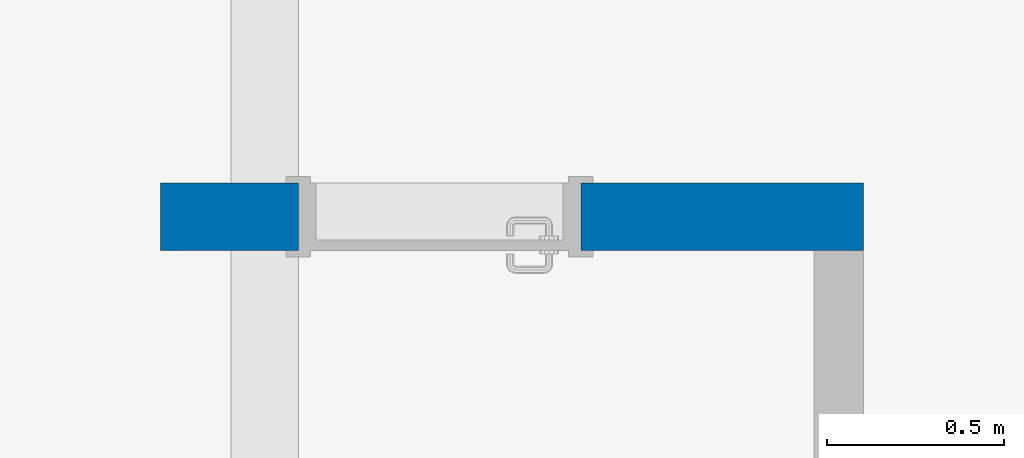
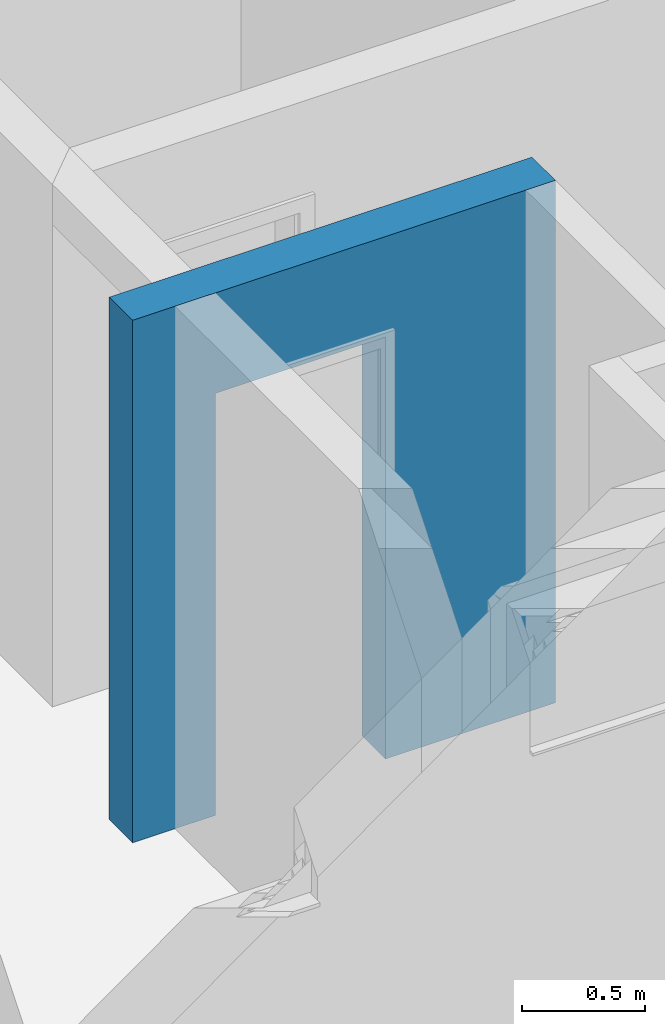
# One storey, part 32 of 47: 1 wall, 1 opening.
"""IFC2X3 building model written with IfcOpenShell, lengths in millimetres."""

from ifc_helpers import new_model, entity, si_unit, converted_unit, derived_unit, money_unit, direction, frame, origin_with_axes, origin_2d_with_axis, place, context, subcontext, project, spatial, polyline, rectangle, outline, extrude, material, layer, layer_set, layer_usage, type_object, element, save


model = new_model("IFC2X3")

# Units and contexts
model_context = context("Model", 3, precision=0.01, world=origin_with_axes(), true_north=direction((0.0, 1.0)))
body_context = subcontext(model_context, "Body", "Model", "MODEL_VIEW")
ifc_project = project(units=[si_unit("LENGTHUNIT", "METRE", prefix="MILLI"), si_unit("AREAUNIT", "SQUARE_METRE"), si_unit("VOLUMEUNIT", "CUBIC_METRE"), converted_unit("PLANEANGLEUNIT", "DEGREE", entity("IfcPlaneAngleMeasure", 0.0174532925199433), si_unit("PLANEANGLEUNIT", "RADIAN"), dimensions=[0, 0, 0, 0, 0, 0, 0]), money_unit("USD"), converted_unit("TIMEUNIT", "Year", entity("IfcTimeMeasure", 31557600.0), si_unit("TIMEUNIT", "SECOND"), dimensions=[0, 0, 1, 0, 0, 0, 0]), si_unit("MASSUNIT", "GRAM", prefix="KILO"), si_unit("THERMODYNAMICTEMPERATUREUNIT", "DEGREE_CELSIUS"), si_unit("LUMINOUSINTENSITYUNIT", "LUMEN"), si_unit("ENERGYUNIT", "JOULE", prefix="MEGA"), derived_unit("THERMALCONDUCTANCEUNIT", [(si_unit("POWERUNIT", "WATT"), 1), (si_unit("LENGTHUNIT", "METRE"), -1), (si_unit("THERMODYNAMICTEMPERATUREUNIT", "KELVIN"), -1)]), derived_unit("SPECIFICHEATCAPACITYUNIT", [(si_unit("ENERGYUNIT", "JOULE"), 1), (si_unit("MASSUNIT", "GRAM", prefix="KILO"), -1), (si_unit("THERMODYNAMICTEMPERATUREUNIT", "KELVIN"), -1)]), derived_unit("MASSDENSITYUNIT", [(si_unit("MASSUNIT", "GRAM", prefix="KILO"), 1), (si_unit("VOLUMEUNIT", "CUBIC_METRE"), -1)])], contexts=[model_context])

# Site, building, storey
site_placement = place(None, origin_with_axes())
site = spatial("IfcSite", under=ifc_project, at=site_placement, Name="Local", CompositionType="ELEMENT")
building_placement = place(site_placement, origin_with_axes())
building = spatial("IfcBuilding", under=site, at=building_placement, Name="Construção", CompositionType="ELEMENT")
storey_placement = place(building_placement, origin_with_axes())
storey = spatial("IfcBuildingStorey", under=building, at=storey_placement, Name="Pavimento Tipo", CompositionType="ELEMENT", Elevation=0.0)

# Wall, opening
ifc_material = material(Name="Concreto - Estrutural")
ifc_layer = layer(ifc_material, 190.0, ventilated="UNKNOWN")
ifc_layer_set = layer_set([ifc_layer], Name="Concreto - Estrutural 190")
ifc_layer_usage = layer_usage(ifc_layer_set, "AXIS2", "POSITIVE", 0.0)
wall_type = type_object("IfcWallType", Name="Concreto - Estrutural 190", PredefinedType="NOTDEFINED")
wall_placement = place(storey_placement, frame((-2757.433002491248, 14786.98141771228, 0.0), z_axis=(0.0, 0.0, 1.0), x_axis=(-1.0, 0.0, 0.0)))
wall = element("IfcWallStandardCase", 1, at=wall_placement, inside=storey, type_object=wall_type, material=ifc_layer_usage, Name="Apartamento 2 - Parede-092", context=body_context, shape_type="SweptSolid", body=[
    extrude(outline(polyline([(0.0, 0.0), (1990.000000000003, 0.0), (1990.000000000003, 189.9999999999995), (0.0, 189.9999999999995), (0.0, 0.0)])), origin_with_axes(), (0.0, 0.0, 1.0), 2600.0),
])
opening_placement = place(wall_placement, frame((1200.000000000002, 0.0, 0.0), z_axis=(0.0, 0.0, 1.0), x_axis=(1.0, 0.0, 0.0)))
element("IfcOpeningElement", 2, at=opening_placement, cuts=wall, Name="Apartamento 2 - P02", context=body_context, shape_type="SweptSolid", body=[
    extrude(rectangle(XDim=800.0000000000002, YDim=2100.0, at=origin_2d_with_axis()), frame((0.0, 189.9999999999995, 1050.0), z_axis=(0.0, -1.0, 0.0), x_axis=(1.0, 0.0, 0.0)), (0.0, 0.0, 1.0), 570.0000000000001),
    extrude(rectangle(XDim=870.0000000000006, YDim=2135.0, at=origin_2d_with_axis()), frame((0.0, 189.9999999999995, 1067.5), z_axis=(0.0, -1.0, 0.0), x_axis=(1.0, 0.0, 0.0)), (0.0, 0.0, -1.0), 190.0),
    extrude(rectangle(XDim=870.0000000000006, YDim=2135.0, at=origin_2d_with_axis()), frame((0.0, 0.0, 1067.5), z_axis=(0.0, 1.0, 0.0), x_axis=(1.0, 0.0, 0.0)), (0.0, 0.0, -1.0), 190.0),
])

save(model, "model.ifc")
